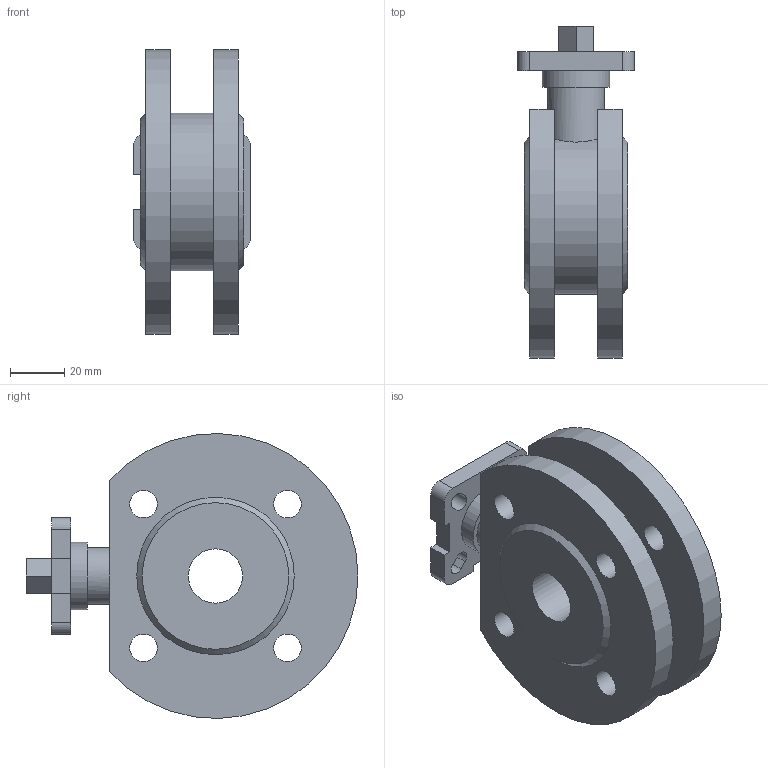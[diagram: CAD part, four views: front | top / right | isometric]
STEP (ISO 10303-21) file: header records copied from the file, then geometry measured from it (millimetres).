
FILE_DESCRIPTION (( 'STEP AP203' ), '1' );
FILE_NAME ('01.622I020016CP.STEP', '2018-10-23T08:49:45', ( 'dell2' ), ( 'Microsoft' ), 'SwSTEP 2.0', 'SolidWorks 2014', '' );
FILE_SCHEMA (( 'CONFIG_CONTROL_DESIGN' ));
Length unit declared in the file: millimetre
Products named in the file (1): 01.622I020016CP
Bounding box: 43 x 122.3 x 104.97 mm (x, y, z)
Volume: 199191.1 mm3; surface area: 44405.7 mm2
Topology: 1 solids, 1 shells, 64 faces, 178 edges, 121 vertices
Faces by surface type: plane 36, cylinder 26, cone 2
Full cylindrical faces by diameter (mm): 10.2 x8, 20 x1, 21 x1, 25 x1
Entity records: 2114 total; most frequent: CARTESIAN_POINT 386, DIRECTION 342, ORIENTED_EDGE 314, EDGE_CURVE 157, AXIS2_PLACEMENT_3D 122, VERTEX_POINT 113, EDGE_LOOP 108, LINE 98
